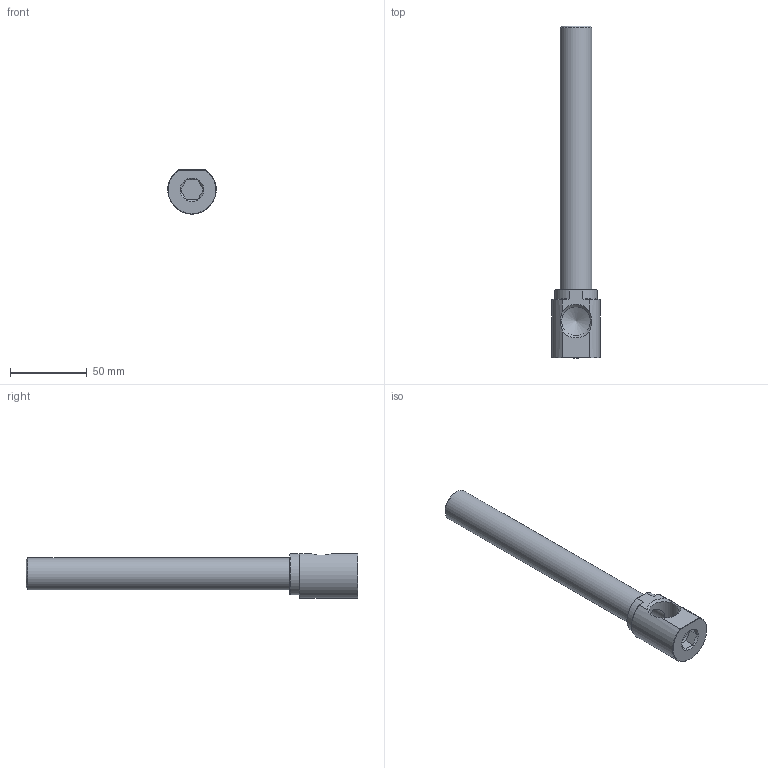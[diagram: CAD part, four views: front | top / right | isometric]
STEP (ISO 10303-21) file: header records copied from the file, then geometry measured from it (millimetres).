
FILE_DESCRIPTION(/* description */ (''),/* implementation_level */ '2;1');
FILE_NAME(/* name */ 'C:/Users/drich/Desktop/EKL50 X 8.5 v2.step',/* time_stamp */ '2019-11-18T14:43:51-06:00',/* author */ (''),/* organization */ (''),/* preprocessor_version */ 'ST-DEVELOPER v18',/* originating_system */ 'Autodesk Translation Framework v8.12.0.6',/* authorisation */ '');
FILE_SCHEMA (('AUTOMOTIVE_DESIGN { 1 0 10303 214 3 1 1 }'));
Length unit declared in the file: inch
Products named in the file (2): EKL50 X 8.5; EKL50 X 8-1/2
Assembly tree (1 placements, depth 2):
  EKL50 X 8.5
    EKL50 X 8-1/2
Bounding box: 31.46 x 215.9 x 28.75 mm (x, y, z)
Volume: 53292.9 mm3; surface area: 26458.3 mm2
Topology: 1 solids, 1 shells, 32 faces, 81 edges, 53 vertices
Faces by surface type: plane 16, cone 10, cylinder 6
Full cylindrical faces by diameter (mm): 14.275 x1, 14.986 x1, 18.901 x1, 20.813 x1
Entity records: 1072 total; most frequent: CARTESIAN_POINT 263, ORIENTED_EDGE 160, DIRECTION 156, EDGE_CURVE 80, AXIS2_PLACEMENT_3D 61, VERTEX_POINT 53, EDGE_LOOP 37, LINE 34
